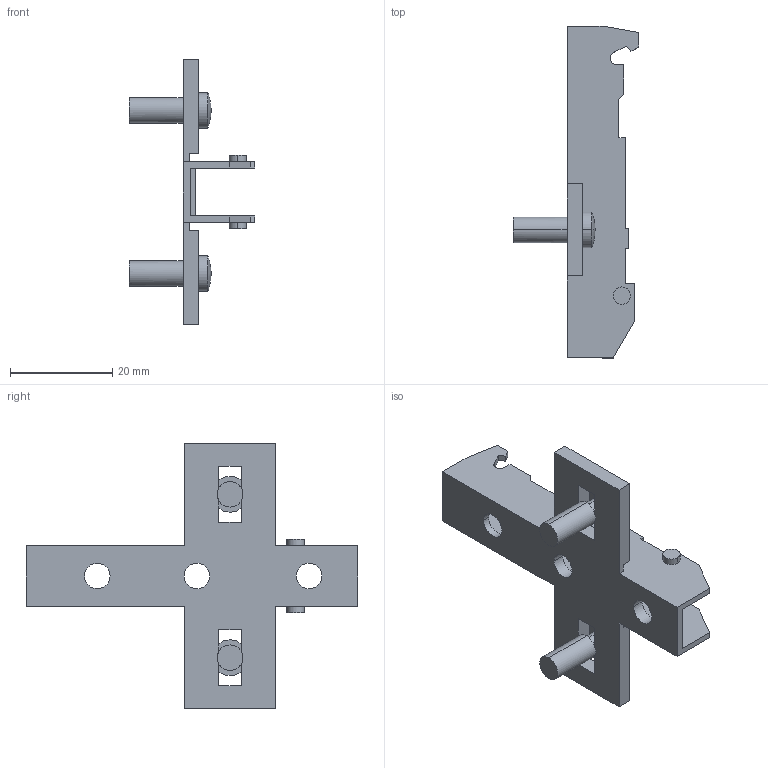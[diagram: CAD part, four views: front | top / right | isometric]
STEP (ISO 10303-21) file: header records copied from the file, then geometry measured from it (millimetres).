
FILE_DESCRIPTION (( 'STEP AP214' ), '1' );
FILE_NAME ('Eco Kreuzmontageplatte LR37_32_Dübel 5mm_lang_H3,5.step', '2010-11-18T10:07:38', ( 'grass' ), ( '' ), 'SwSTEP 2.0', 'SolidWorks 2010', '' );
FILE_SCHEMA (( 'AUTOMOTIVE_DESIGN' ));
Length unit declared in the file: millimetre
Products named in the file (1): Eco Kreuzmontageplatte LR37_32_Dübel 5mm_lang_H3,5
Bounding box: 24.5 x 65 x 52 mm (x, y, z)
Volume: 5245.5 mm3; surface area: 6824.3 mm2
Topology: 1 solids, 1 shells, 104 faces, 306 edges, 198 vertices
Faces by surface type: plane 76, cylinder 24, sphere 4
Entity records: 3512 total; most frequent: ORIENTED_EDGE 612, CARTESIAN_POINT 609, DIRECTION 584, EDGE_CURVE 306, LINE 238, VECTOR 238, VERTEX_POINT 198, AXIS2_PLACEMENT_3D 173
